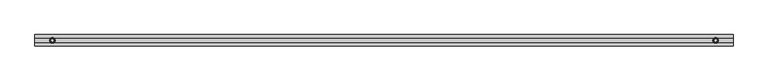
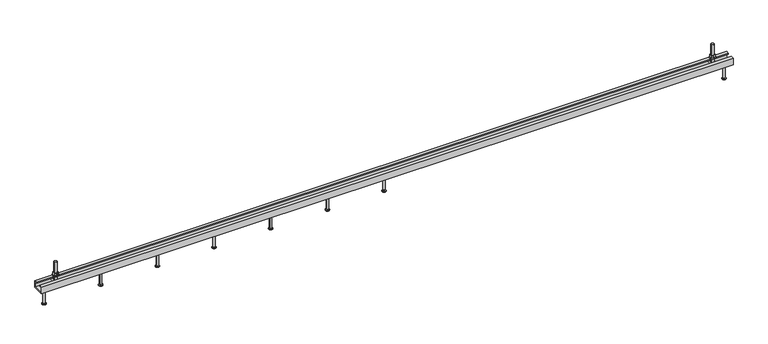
"""IFC4 building model written with IfcOpenShell, lengths in millimetres: fastener geometry, JTA-W JORDAHL® AnchorChannels : JTA-W L=3000 mm."""

from ifc_helpers import new_model, si_unit, point, frame, frame_2d, origin, place, context, project, spatial, polyline, circle_curve, trimmed, segment, composite_curve, outline, extrude, source, transform, mapped, element, save
from ifc_brep_helpers import plane_surface, cylinder_surface, revolved_surface, advanced_brep


def fastener_16a89f6c(model_context):
    return source(origin(), model_context, "Body", "SolidModel", [
        advanced_brep(
        [(1500.0, 0.0, -30.0), (1486.5, 0.0, -30.0), (1513.5, 0.0, -30.0), (1491.5, 0.0, -100.0), (1500.0, 0.0, -100.0), (1508.5, 0.0, -100.0), (1491.5, 0.0, -98.0), (1508.5, 0.0, -98.0), (1495.5, 0.0, -95.6905989), (1504.5, 0.0, -95.6905989), (1495.5, 0.0, -32.5), (1504.5, 0.0, -32.5)],
        [
            (0, 1),
            (1, 2, circle_curve(frame((1500.0, 0.0, -30.0), z_axis=(0.0, 0.0, 1.0), x_axis=(1.0, 0.0, 0.0)), 13.5)),
            (2, 0),
            (2, 1, circle_curve(frame((1500.0, 0.0, -30.0), z_axis=(0.0, 0.0, 1.0), x_axis=(1.0, 0.0, 0.0)), 13.5)),
            (3, 4),
            (4, 5),
            (5, 3, circle_curve(frame((1500.0, 0.0, -100.0), z_axis=(0.0, 0.0, -1.0), x_axis=(1.0, 0.0, 0.0)), 8.5)),
            (3, 5, circle_curve(frame((1500.0, 0.0, -100.0), z_axis=(0.0, 0.0, -1.0), x_axis=(1.0, 0.0, 0.0)), 8.5)),
            (6, 3),
            (5, 7),
            (7, 6, circle_curve(frame((1500.0, 0.0, -98.0), z_axis=(0.0, 0.0, -1.0), x_axis=(1.0, 0.0, 0.0)), 8.5)),
            (6, 7, circle_curve(frame((1500.0, 0.0, -98.0), z_axis=(0.0, 0.0, -1.0), x_axis=(1.0, 0.0, 0.0)), 8.5)),
            (8, 6),
            (7, 9),
            (9, 8, circle_curve(frame((1500.0, 0.0, -95.6905989), z_axis=(0.0, 0.0, -1.0), x_axis=(1.0, 0.0, 0.0)), 4.5)),
            (8, 9, circle_curve(frame((1500.0, 0.0, -95.6905989), z_axis=(0.0, 0.0, -1.0), x_axis=(1.0, 0.0, 0.0)), 4.5)),
            (10, 8),
            (9, 11),
            (11, 10, circle_curve(frame((1500.0, 0.0, -32.5), z_axis=(0.0, 0.0, -1.0), x_axis=(1.0, 0.0, 0.0)), 4.5)),
            (10, 11, circle_curve(frame((1500.0, 0.0, -32.5), z_axis=(0.0, 0.0, -1.0), x_axis=(1.0, 0.0, 0.0)), 4.5)),
            (1, 10),
            (11, 2),
        ],
        [
            plane_surface(frame((1500.0, 0.0, -30.0), z_axis=(0.0, 0.0, 1.0), x_axis=(1.0, 0.0, 0.0))),
            plane_surface(frame((1500.0, 0.0, -100.0), z_axis=(0.0, 0.0, -1.0), x_axis=(1.0, 0.0, 0.0))),
            cylinder_surface(frame((1500.0, 0.0, 2284.3150031), z_axis=(0.0, 0.0, 1.0), x_axis=(1.0, 0.0, 0.0)), 8.5),
            revolved_surface(polyline([(1508.5, 0.0, -98.0), (1504.5, 0.0, -95.6905989)]), (1500.0, 0.0, 2284.3150031), (0.0, 0.0, 1.0)),
            cylinder_surface(frame((1500.0, 0.0, 2284.3150031), z_axis=(0.0, 0.0, 1.0), x_axis=(1.0, 0.0, 0.0)), 4.5),
            revolved_surface(polyline([(1504.5, 0.0, -32.5), (1513.5, 0.0, -30.0)]), (1500.0, 0.0, 2284.3150031), (0.0, 0.0, 1.0)),
        ],
        [
            (0, [[1, 2, 3]]),
            (0, [[-3, 4, -1]]),
            (1, [[5, 6, 7]]),
            (1, [[-6, -5, 8]]),
            (2, [[9, -7, 10, 11]]),
            (2, [[-10, -8, -9, 12]]),
            (3, [[13, -11, 14, 15]]),
            (3, [[-14, -12, -13, 16]]),
            (4, [[17, -15, 18, 19]]),
            (4, [[-18, -16, -17, 20]]),
            (5, [[21, -19, 22, -2]]),
            (5, [[-22, -20, -21, -4]]),
        ],
    ),
        advanced_brep(
        [(1254.1666667, 0.0, -30.0), (1240.6666667, 0.0, -30.0), (1267.6666667, 0.0, -30.0), (1245.6666667, 0.0, -100.0), (1254.1666667, 0.0, -100.0), (1262.6666667, 0.0, -100.0), (1245.6666667, 0.0, -98.0), (1262.6666667, 0.0, -98.0), (1249.6666667, 0.0, -95.6905989), (1258.6666667, 0.0, -95.6905989), (1249.6666667, 0.0, -32.5), (1258.6666667, 0.0, -32.5)],
        [
            (0, 1),
            (1, 2, circle_curve(frame((1254.1666667, 0.0, -30.0), z_axis=(0.0, 0.0, 1.0), x_axis=(1.0, 0.0, 0.0)), 13.5)),
            (2, 0),
            (2, 1, circle_curve(frame((1254.1666667, 0.0, -30.0), z_axis=(0.0, 0.0, 1.0), x_axis=(1.0, 0.0, 0.0)), 13.5)),
            (3, 4),
            (4, 5),
            (5, 3, circle_curve(frame((1254.1666667, 0.0, -100.0), z_axis=(0.0, 0.0, -1.0), x_axis=(1.0, 0.0, 0.0)), 8.5)),
            (3, 5, circle_curve(frame((1254.1666667, 0.0, -100.0), z_axis=(0.0, 0.0, -1.0), x_axis=(1.0, 0.0, 0.0)), 8.5)),
            (6, 3),
            (5, 7),
            (7, 6, circle_curve(frame((1254.1666667, 0.0, -98.0), z_axis=(0.0, 0.0, -1.0), x_axis=(1.0, 0.0, 0.0)), 8.5)),
            (6, 7, circle_curve(frame((1254.1666667, 0.0, -98.0), z_axis=(0.0, 0.0, -1.0), x_axis=(1.0, 0.0, 0.0)), 8.5)),
            (8, 6),
            (7, 9),
            (9, 8, circle_curve(frame((1254.1666667, 0.0, -95.6905989), z_axis=(0.0, 0.0, -1.0), x_axis=(1.0, 0.0, 0.0)), 4.5)),
            (8, 9, circle_curve(frame((1254.1666667, 0.0, -95.6905989), z_axis=(0.0, 0.0, -1.0), x_axis=(1.0, 0.0, 0.0)), 4.5)),
            (10, 8),
            (9, 11),
            (11, 10, circle_curve(frame((1254.1666667, 0.0, -32.5), z_axis=(0.0, 0.0, -1.0), x_axis=(1.0, 0.0, 0.0)), 4.5)),
            (10, 11, circle_curve(frame((1254.1666667, 0.0, -32.5), z_axis=(0.0, 0.0, -1.0), x_axis=(1.0, 0.0, 0.0)), 4.5)),
            (1, 10),
            (11, 2),
        ],
        [
            plane_surface(frame((1254.1666667, 0.0, -30.0), z_axis=(0.0, 0.0, 1.0), x_axis=(1.0, 0.0, 0.0))),
            plane_surface(frame((1254.1666667, 0.0, -100.0), z_axis=(0.0, 0.0, -1.0), x_axis=(1.0, 0.0, 0.0))),
            cylinder_surface(frame((1254.1666667, 0.0, 2284.3150031), z_axis=(0.0, 0.0, 1.0), x_axis=(1.0, 0.0, 0.0)), 8.5),
            revolved_surface(polyline([(1262.6666667, 0.0, -98.0), (1258.6666667, 0.0, -95.6905989)]), (1254.1666667, 0.0, 2284.3150031), (0.0, 0.0, 1.0)),
            cylinder_surface(frame((1254.1666667, 0.0, 2284.3150031), z_axis=(0.0, 0.0, 1.0), x_axis=(1.0, 0.0, 0.0)), 4.5),
            revolved_surface(polyline([(1258.6666667, 0.0, -32.5), (1267.6666667, 0.0, -30.0)]), (1254.1666667, 0.0, 2284.3150031), (0.0, 0.0, 1.0)),
        ],
        [
            (0, [[1, 2, 3]]),
            (0, [[-3, 4, -1]]),
            (1, [[5, 6, 7]]),
            (1, [[-6, -5, 8]]),
            (2, [[9, -7, 10, 11]]),
            (2, [[-10, -8, -9, 12]]),
            (3, [[13, -11, 14, 15]]),
            (3, [[-14, -12, -13, 16]]),
            (4, [[17, -15, 18, 19]]),
            (4, [[-18, -16, -17, 20]]),
            (5, [[21, -19, 22, -2]]),
            (5, [[-22, -20, -21, -4]]),
        ],
    ),
        advanced_brep(
        [(1008.3333333, 0.0, -30.0), (994.8333333, 0.0, -30.0), (1021.8333333, 0.0, -30.0), (999.8333333, 0.0, -100.0), (1008.3333333, 0.0, -100.0), (1016.8333333, 0.0, -100.0), (999.8333333, 0.0, -98.0), (1016.8333333, 0.0, -98.0), (1003.8333333, 0.0, -95.6905989), (1012.8333333, 0.0, -95.6905989), (1003.8333333, 0.0, -32.5), (1012.8333333, 0.0, -32.5)],
        [
            (0, 1),
            (1, 2, circle_curve(frame((1008.3333333, 0.0, -30.0), z_axis=(0.0, 0.0, 1.0), x_axis=(1.0, 0.0, 0.0)), 13.5)),
            (2, 0),
            (2, 1, circle_curve(frame((1008.3333333, 0.0, -30.0), z_axis=(0.0, 0.0, 1.0), x_axis=(1.0, 0.0, 0.0)), 13.5)),
            (3, 4),
            (4, 5),
            (5, 3, circle_curve(frame((1008.3333333, 0.0, -100.0), z_axis=(0.0, 0.0, -1.0), x_axis=(1.0, 0.0, 0.0)), 8.5)),
            (3, 5, circle_curve(frame((1008.3333333, 0.0, -100.0), z_axis=(0.0, 0.0, -1.0), x_axis=(1.0, 0.0, 0.0)), 8.5)),
            (6, 3),
            (5, 7),
            (7, 6, circle_curve(frame((1008.3333333, 0.0, -98.0), z_axis=(0.0, 0.0, -1.0), x_axis=(1.0, 0.0, 0.0)), 8.5)),
            (6, 7, circle_curve(frame((1008.3333333, 0.0, -98.0), z_axis=(0.0, 0.0, -1.0), x_axis=(1.0, 0.0, 0.0)), 8.5)),
            (8, 6),
            (7, 9),
            (9, 8, circle_curve(frame((1008.3333333, 0.0, -95.6905989), z_axis=(0.0, 0.0, -1.0), x_axis=(1.0, 0.0, 0.0)), 4.5)),
            (8, 9, circle_curve(frame((1008.3333333, 0.0, -95.6905989), z_axis=(0.0, 0.0, -1.0), x_axis=(1.0, 0.0, 0.0)), 4.5)),
            (10, 8),
            (9, 11),
            (11, 10, circle_curve(frame((1008.3333333, 0.0, -32.5), z_axis=(0.0, 0.0, -1.0), x_axis=(1.0, 0.0, 0.0)), 4.5)),
            (10, 11, circle_curve(frame((1008.3333333, 0.0, -32.5), z_axis=(0.0, 0.0, -1.0), x_axis=(1.0, 0.0, 0.0)), 4.5)),
            (1, 10),
            (11, 2),
        ],
        [
            plane_surface(frame((1008.3333333, 0.0, -30.0), z_axis=(0.0, 0.0, 1.0), x_axis=(1.0, 0.0, 0.0))),
            plane_surface(frame((1008.3333333, 0.0, -100.0), z_axis=(0.0, 0.0, -1.0), x_axis=(1.0, 0.0, 0.0))),
            cylinder_surface(frame((1008.3333333, 0.0, 2284.3150031), z_axis=(0.0, 0.0, 1.0), x_axis=(1.0, 0.0, 0.0)), 8.5),
            revolved_surface(polyline([(1016.8333333, 0.0, -98.0), (1012.8333333, 0.0, -95.6905989)]), (1008.3333333, 0.0, 2284.3150031), (0.0, 0.0, 1.0)),
            cylinder_surface(frame((1008.3333333, 0.0, 2284.3150031), z_axis=(0.0, 0.0, 1.0), x_axis=(1.0, 0.0, 0.0)), 4.5),
            revolved_surface(polyline([(1012.8333333, 0.0, -32.5), (1021.8333333, 0.0, -30.0)]), (1008.3333333, 0.0, 2284.3150031), (0.0, 0.0, 1.0)),
        ],
        [
            (0, [[1, 2, 3]]),
            (0, [[-3, 4, -1]]),
            (1, [[5, 6, 7]]),
            (1, [[-6, -5, 8]]),
            (2, [[9, -7, 10, 11]]),
            (2, [[-10, -8, -9, 12]]),
            (3, [[13, -11, 14, 15]]),
            (3, [[-14, -12, -13, 16]]),
            (4, [[17, -15, 18, 19]]),
            (4, [[-18, -16, -17, 20]]),
            (5, [[21, -19, 22, -2]]),
            (5, [[-22, -20, -21, -4]]),
        ],
    ),
        advanced_brep(
        [(762.5, 0.0, -30.0), (749.0, 0.0, -30.0), (776.0, 0.0, -30.0), (754.0, 0.0, -100.0), (762.5, 0.0, -100.0), (771.0, 0.0, -100.0), (754.0, 0.0, -98.0), (771.0, 0.0, -98.0), (758.0, 0.0, -95.6905989), (767.0, 0.0, -95.6905989), (758.0, 0.0, -32.5), (767.0, 0.0, -32.5)],
        [
            (0, 1),
            (1, 2, circle_curve(frame((762.5, 0.0, -30.0), z_axis=(0.0, 0.0, 1.0), x_axis=(1.0, 0.0, 0.0)), 13.5)),
            (2, 0),
            (2, 1, circle_curve(frame((762.5, 0.0, -30.0), z_axis=(0.0, 0.0, 1.0), x_axis=(1.0, 0.0, 0.0)), 13.5)),
            (3, 4),
            (4, 5),
            (5, 3, circle_curve(frame((762.5, 0.0, -100.0), z_axis=(0.0, 0.0, -1.0), x_axis=(1.0, 0.0, 0.0)), 8.5)),
            (3, 5, circle_curve(frame((762.5, 0.0, -100.0), z_axis=(0.0, 0.0, -1.0), x_axis=(1.0, 0.0, 0.0)), 8.5)),
            (6, 3),
            (5, 7),
            (7, 6, circle_curve(frame((762.5, 0.0, -98.0), z_axis=(0.0, 0.0, -1.0), x_axis=(1.0, 0.0, 0.0)), 8.5)),
            (6, 7, circle_curve(frame((762.5, 0.0, -98.0), z_axis=(0.0, 0.0, -1.0), x_axis=(1.0, 0.0, 0.0)), 8.5)),
            (8, 6),
            (7, 9),
            (9, 8, circle_curve(frame((762.5, 0.0, -95.6905989), z_axis=(0.0, 0.0, -1.0), x_axis=(1.0, 0.0, 0.0)), 4.5)),
            (8, 9, circle_curve(frame((762.5, 0.0, -95.6905989), z_axis=(0.0, 0.0, -1.0), x_axis=(1.0, 0.0, 0.0)), 4.5)),
            (10, 8),
            (9, 11),
            (11, 10, circle_curve(frame((762.5, 0.0, -32.5), z_axis=(0.0, 0.0, -1.0), x_axis=(1.0, 0.0, 0.0)), 4.5)),
            (10, 11, circle_curve(frame((762.5, 0.0, -32.5), z_axis=(0.0, 0.0, -1.0), x_axis=(1.0, 0.0, 0.0)), 4.5)),
            (1, 10),
            (11, 2),
        ],
        [
            plane_surface(frame((762.5, 0.0, -30.0), z_axis=(0.0, 0.0, 1.0), x_axis=(1.0, 0.0, 0.0))),
            plane_surface(frame((762.5, 0.0, -100.0), z_axis=(0.0, 0.0, -1.0), x_axis=(1.0, 0.0, 0.0))),
            cylinder_surface(frame((762.5, 0.0, 2284.3150031), z_axis=(0.0, 0.0, 1.0), x_axis=(1.0, 0.0, 0.0)), 8.5),
            revolved_surface(polyline([(771.0, 0.0, -98.0), (767.0, 0.0, -95.6905989)]), (762.5, 0.0, 2284.3150031), (0.0, 0.0, 1.0)),
            cylinder_surface(frame((762.5, 0.0, 2284.3150031), z_axis=(0.0, 0.0, 1.0), x_axis=(1.0, 0.0, 0.0)), 4.5),
            revolved_surface(polyline([(767.0, 0.0, -32.5), (776.0, 0.0, -30.0)]), (762.5, 0.0, 2284.3150031), (0.0, 0.0, 1.0)),
        ],
        [
            (0, [[1, 2, 3]]),
            (0, [[-3, 4, -1]]),
            (1, [[5, 6, 7]]),
            (1, [[-6, -5, 8]]),
            (2, [[9, -7, 10, 11]]),
            (2, [[-10, -8, -9, 12]]),
            (3, [[13, -11, 14, 15]]),
            (3, [[-14, -12, -13, 16]]),
            (4, [[17, -15, 18, 19]]),
            (4, [[-18, -16, -17, 20]]),
            (5, [[21, -19, 22, -2]]),
            (5, [[-22, -20, -21, -4]]),
        ],
    ),
        advanced_brep(
        [(516.6666667, 0.0, -30.0), (503.1666667, 0.0, -30.0), (530.1666667, 0.0, -30.0), (508.1666667, 0.0, -100.0), (516.6666667, 0.0, -100.0), (525.1666667, 0.0, -100.0), (508.1666667, 0.0, -98.0), (525.1666667, 0.0, -98.0), (512.1666667, 0.0, -95.6905989), (521.1666667, 0.0, -95.6905989), (512.1666667, 0.0, -32.5), (521.1666667, 0.0, -32.5)],
        [
            (0, 1),
            (1, 2, circle_curve(frame((516.6666667, 0.0, -30.0), z_axis=(0.0, 0.0, 1.0), x_axis=(1.0, 0.0, 0.0)), 13.5)),
            (2, 0),
            (2, 1, circle_curve(frame((516.6666667, 0.0, -30.0), z_axis=(0.0, 0.0, 1.0), x_axis=(1.0, 0.0, 0.0)), 13.5)),
            (3, 4),
            (4, 5),
            (5, 3, circle_curve(frame((516.6666667, 0.0, -100.0), z_axis=(0.0, 0.0, -1.0), x_axis=(1.0, 0.0, 0.0)), 8.5)),
            (3, 5, circle_curve(frame((516.6666667, 0.0, -100.0), z_axis=(0.0, 0.0, -1.0), x_axis=(1.0, 0.0, 0.0)), 8.5)),
            (6, 3),
            (5, 7),
            (7, 6, circle_curve(frame((516.6666667, 0.0, -98.0), z_axis=(0.0, 0.0, -1.0), x_axis=(1.0, 0.0, 0.0)), 8.5)),
            (6, 7, circle_curve(frame((516.6666667, 0.0, -98.0), z_axis=(0.0, 0.0, -1.0), x_axis=(1.0, 0.0, 0.0)), 8.5)),
            (8, 6),
            (7, 9),
            (9, 8, circle_curve(frame((516.6666667, 0.0, -95.6905989), z_axis=(0.0, 0.0, -1.0), x_axis=(1.0, 0.0, 0.0)), 4.5)),
            (8, 9, circle_curve(frame((516.6666667, 0.0, -95.6905989), z_axis=(0.0, 0.0, -1.0), x_axis=(1.0, 0.0, 0.0)), 4.5)),
            (10, 8),
            (9, 11),
            (11, 10, circle_curve(frame((516.6666667, 0.0, -32.5), z_axis=(0.0, 0.0, -1.0), x_axis=(1.0, 0.0, 0.0)), 4.5)),
            (10, 11, circle_curve(frame((516.6666667, 0.0, -32.5), z_axis=(0.0, 0.0, -1.0), x_axis=(1.0, 0.0, 0.0)), 4.5)),
            (1, 10),
            (11, 2),
        ],
        [
            plane_surface(frame((516.6666667, 0.0, -30.0), z_axis=(0.0, 0.0, 1.0), x_axis=(1.0, 0.0, 0.0))),
            plane_surface(frame((516.6666667, 0.0, -100.0), z_axis=(0.0, 0.0, -1.0), x_axis=(1.0, 0.0, 0.0))),
            cylinder_surface(frame((516.6666667, 0.0, 2284.3150031), z_axis=(0.0, 0.0, 1.0), x_axis=(1.0, 0.0, 0.0)), 8.5),
            revolved_surface(polyline([(525.1666667, 0.0, -98.0), (521.1666667, 0.0, -95.6905989)]), (516.6666667, 0.0, 2284.3150031), (0.0, 0.0, 1.0)),
            cylinder_surface(frame((516.6666667, 0.0, 2284.3150031), z_axis=(0.0, 0.0, 1.0), x_axis=(1.0, 0.0, 0.0)), 4.5),
            revolved_surface(polyline([(521.1666667, 0.0, -32.5), (530.1666667, 0.0, -30.0)]), (516.6666667, 0.0, 2284.3150031), (0.0, 0.0, 1.0)),
        ],
        [
            (0, [[1, 2, 3]]),
            (0, [[-3, 4, -1]]),
            (1, [[5, 6, 7]]),
            (1, [[-6, -5, 8]]),
            (2, [[9, -7, 10, 11]]),
            (2, [[-10, -8, -9, 12]]),
            (3, [[13, -11, 14, 15]]),
            (3, [[-14, -12, -13, 16]]),
            (4, [[17, -15, 18, 19]]),
            (4, [[-18, -16, -17, 20]]),
            (5, [[21, -19, 22, -2]]),
            (5, [[-22, -20, -21, -4]]),
        ],
    ),
        advanced_brep(
        [(270.8333333, 0.0, -30.0), (257.3333333, 0.0, -30.0), (284.3333333, 0.0, -30.0), (262.3333333, 0.0, -100.0), (270.8333333, 0.0, -100.0), (279.3333333, 0.0, -100.0), (262.3333333, 0.0, -98.0), (279.3333333, 0.0, -98.0), (266.3333333, 0.0, -95.6905989), (275.3333333, 0.0, -95.6905989), (266.3333333, 0.0, -32.5), (275.3333333, 0.0, -32.5)],
        [
            (0, 1),
            (1, 2, circle_curve(frame((270.8333333, 0.0, -30.0), z_axis=(0.0, 0.0, 1.0), x_axis=(1.0, 0.0, 0.0)), 13.5)),
            (2, 0),
            (2, 1, circle_curve(frame((270.8333333, 0.0, -30.0), z_axis=(0.0, 0.0, 1.0), x_axis=(1.0, 0.0, 0.0)), 13.5)),
            (3, 4),
            (4, 5),
            (5, 3, circle_curve(frame((270.8333333, 0.0, -100.0), z_axis=(0.0, 0.0, -1.0), x_axis=(1.0, 0.0, 0.0)), 8.5)),
            (3, 5, circle_curve(frame((270.8333333, 0.0, -100.0), z_axis=(0.0, 0.0, -1.0), x_axis=(1.0, 0.0, 0.0)), 8.5)),
            (6, 3),
            (5, 7),
            (7, 6, circle_curve(frame((270.8333333, 0.0, -98.0), z_axis=(0.0, 0.0, -1.0), x_axis=(1.0, 0.0, 0.0)), 8.5)),
            (6, 7, circle_curve(frame((270.8333333, 0.0, -98.0), z_axis=(0.0, 0.0, -1.0), x_axis=(1.0, 0.0, 0.0)), 8.5)),
            (8, 6),
            (7, 9),
            (9, 8, circle_curve(frame((270.8333333, 0.0, -95.6905989), z_axis=(0.0, 0.0, -1.0), x_axis=(1.0, 0.0, 0.0)), 4.5)),
            (8, 9, circle_curve(frame((270.8333333, 0.0, -95.6905989), z_axis=(0.0, 0.0, -1.0), x_axis=(1.0, 0.0, 0.0)), 4.5)),
            (10, 8),
            (9, 11),
            (11, 10, circle_curve(frame((270.8333333, 0.0, -32.5), z_axis=(0.0, 0.0, -1.0), x_axis=(1.0, 0.0, 0.0)), 4.5)),
            (10, 11, circle_curve(frame((270.8333333, 0.0, -32.5), z_axis=(0.0, 0.0, -1.0), x_axis=(1.0, 0.0, 0.0)), 4.5)),
            (1, 10),
            (11, 2),
        ],
        [
            plane_surface(frame((270.8333333, 0.0, -30.0), z_axis=(0.0, 0.0, 1.0), x_axis=(1.0, 0.0, 0.0))),
            plane_surface(frame((270.8333333, 0.0, -100.0), z_axis=(0.0, 0.0, -1.0), x_axis=(1.0, 0.0, 0.0))),
            cylinder_surface(frame((270.8333333, 0.0, 2284.3150031), z_axis=(0.0, 0.0, 1.0), x_axis=(1.0, 0.0, 0.0)), 8.5),
            revolved_surface(polyline([(279.3333333, 0.0, -98.0), (275.3333333, 0.0, -95.6905989)]), (270.8333333, 0.0, 2284.3150031), (0.0, 0.0, 1.0)),
            cylinder_surface(frame((270.8333333, 0.0, 2284.3150031), z_axis=(0.0, 0.0, 1.0), x_axis=(1.0, 0.0, 0.0)), 4.5),
            revolved_surface(polyline([(275.3333333, 0.0, -32.5), (284.3333333, 0.0, -30.0)]), (270.8333333, 0.0, 2284.3150031), (0.0, 0.0, 1.0)),
        ],
        [
            (0, [[1, 2, 3]]),
            (0, [[-3, 4, -1]]),
            (1, [[5, 6, 7]]),
            (1, [[-6, -5, 8]]),
            (2, [[9, -7, 10, 11]]),
            (2, [[-10, -8, -9, 12]]),
            (3, [[13, -11, 14, 15]]),
            (3, [[-14, -12, -13, 16]]),
            (4, [[17, -15, 18, 19]]),
            (4, [[-18, -16, -17, 20]]),
            (5, [[21, -19, 22, -2]]),
            (5, [[-22, -20, -21, -4]]),
        ],
    ),
        extrude(outline(polyline([(2925.0, -10.3923048), (2916.0, -5.1961524), (2916.0, 5.1961524), (2925.0, 10.3923048), (2934.0, 5.1961524), (2934.0, -5.1961524), (2925.0, -10.3923048)]), holes=[composite_curve([segment(trimmed(circle_curve(frame_2d((2925.0, 0.0)), 6.0), [point((2919.0, 0.0))], [point((2931.0, 0.0))], True, "CARTESIAN"), True, "CONTINUOUS"), segment(trimmed(circle_curve(frame_2d((2925.0, 0.0)), 6.0), [point((2931.0, 0.0))], [point((2919.0, 0.0))], True, "CARTESIAN"), True, "CONTINUOUS")], self_intersect=False)]), frame((0.0, 0.0, 17.5), z_axis=(0.0, 0.0, 1.0), x_axis=(1.0, 0.0, 0.0)), (0.0, 0.0, 1.0), 10.8),
        extrude(outline(composite_curve([segment(trimmed(circle_curve(frame_2d((2925.0, 0.0)), 12.0), [point((2913.0, 0.0))], [point((2937.0, 0.0))], False, "CARTESIAN"), True, "CONTINUOUS"), segment(trimmed(circle_curve(frame_2d((2925.0, 0.0)), 12.0), [point((2937.0, 0.0))], [point((2913.0, 0.0))], False, "CARTESIAN"), True, "CONTINUOUS")], self_intersect=False), holes=[composite_curve([segment(trimmed(circle_curve(frame_2d((2925.0, 0.0)), 6.5), [point((2918.5, 0.0))], [point((2931.5, 0.0))], True, "CARTESIAN"), True, "CONTINUOUS"), segment(trimmed(circle_curve(frame_2d((2925.0, 0.0)), 6.5), [point((2931.5, 0.0))], [point((2918.5, 0.0))], True, "CARTESIAN"), True, "CONTINUOUS")], self_intersect=False)]), frame((0.0, 0.0, 15.0), z_axis=(0.0, 0.0, 1.0), x_axis=(1.0, 0.0, 0.0)), (0.0, 0.0, 1.0), 2.5),
        extrude(outline(polyline([(75.0, -10.3923048), (66.0, -5.1961524), (66.0, 5.1961524), (75.0, 10.3923048), (84.0, 5.1961524), (84.0, -5.1961524), (75.0, -10.3923048)]), holes=[composite_curve([segment(trimmed(circle_curve(frame_2d((75.0, 0.0)), 6.0), [point((69.0, 0.0))], [point((81.0, 0.0))], True, "CARTESIAN"), True, "CONTINUOUS"), segment(trimmed(circle_curve(frame_2d((75.0, 0.0)), 6.0), [point((81.0, 0.0))], [point((69.0, 0.0))], True, "CARTESIAN"), True, "CONTINUOUS")], self_intersect=False)]), frame((0.0, 0.0, 17.5), z_axis=(0.0, 0.0, 1.0), x_axis=(1.0, 0.0, 0.0)), (0.0, 0.0, 1.0), 10.8),
        extrude(outline(composite_curve([segment(trimmed(circle_curve(frame_2d((75.0, 0.0)), 12.0), [point((63.0, 0.0))], [point((87.0, 0.0))], False, "CARTESIAN"), True, "CONTINUOUS"), segment(trimmed(circle_curve(frame_2d((75.0, 0.0)), 12.0), [point((87.0, 0.0))], [point((63.0, 0.0))], False, "CARTESIAN"), True, "CONTINUOUS")], self_intersect=False), holes=[composite_curve([segment(trimmed(circle_curve(frame_2d((75.0, 0.0)), 6.5), [point((68.5, 0.0))], [point((81.5, 0.0))], True, "CARTESIAN"), True, "CONTINUOUS"), segment(trimmed(circle_curve(frame_2d((75.0, 0.0)), 6.5), [point((81.5, 0.0))], [point((68.5, 0.0))], True, "CARTESIAN"), True, "CONTINUOUS")], self_intersect=False)]), frame((0.0, 0.0, 15.0), z_axis=(0.0, 0.0, 1.0), x_axis=(1.0, 0.0, 0.0)), (0.0, 0.0, 1.0), 2.5),
        advanced_brep(
        [(2933.5, -20.7, -4.0), (2933.5, -20.7, -14.0), (2933.5, 20.7, -14.0), (2933.5, 20.7, -4.0), (2916.5, -20.7, -4.0), (2916.5, 20.7, -4.0), (2916.5, 20.7, -14.0), (2916.5, -20.7, -14.0), (2931.0, 0.0, -4.0), (2919.0, 0.0, -4.0), (2919.0, 0.0, 76.0), (2931.0, 0.0, 76.0)],
        [
            (0, 1),
            (1, 2),
            (2, 3),
            (3, 0),
            (4, 5),
            (5, 6),
            (6, 7),
            (7, 4),
            (3, 5),
            (4, 0),
            (8, 9, circle_curve(frame((2925.0, 0.0, -4.0), z_axis=(0.0, 0.0, -1.0), x_axis=(1.0, 0.0, 0.0)), 6.0)),
            (9, 8, circle_curve(frame((2925.0, 0.0, -4.0), z_axis=(0.0, 0.0, -1.0), x_axis=(1.0, 0.0, 0.0)), 6.0)),
            (2, 6),
            (1, 7),
            (10, 11, circle_curve(frame((2925.0, 0.0, 76.0), z_axis=(0.0, 0.0, 1.0), x_axis=(1.0, 0.0, 0.0)), 6.0)),
            (11, 10, circle_curve(frame((2925.0, 0.0, 76.0), z_axis=(0.0, 0.0, 1.0), x_axis=(1.0, 0.0, 0.0)), 6.0)),
            (11, 8),
            (9, 10),
        ],
        [
            plane_surface(frame((2933.5, 20.7, -4.0), z_axis=(1.0, 0.0, 0.0), x_axis=(0.0, 1.0, 0.0))),
            plane_surface(frame((2916.5, 20.7, -4.0), z_axis=(-1.0, 0.0, 0.0), x_axis=(0.0, -1.0, 0.0))),
            plane_surface(frame((2933.5, -20.7, -4.0), z_axis=(0.0, 0.0, 1.0), x_axis=(-1.0, 0.0, 0.0))),
            plane_surface(frame((2933.5, 20.7, -4.0), z_axis=(0.0, 1.0, 0.0), x_axis=(-1.0, 0.0, 0.0))),
            plane_surface(frame((2933.5, 20.7, -14.0), z_axis=(0.0, 0.0, -1.0), x_axis=(-1.0, 0.0, 0.0))),
            plane_surface(frame((2933.5, -20.7, -14.0), z_axis=(0.0, -1.0, 0.0), x_axis=(-1.0, 0.0, 0.0))),
            plane_surface(frame((2931.0, 0.0, 76.0), z_axis=(0.0, 0.0, 1.0), x_axis=(0.0, -1.0, 0.0))),
            cylinder_surface(frame((2925.0, 0.0, -4.0), z_axis=(0.0, 0.0, 1.0), x_axis=(1.0, 0.0, 0.0)), 6.0),
        ],
        [
            (0, [[1, 2, 3, 4]]),
            (1, [[5, 6, 7, 8]]),
            (2, [[9, -5, 10, -4], [11, 12]]),
            (3, [[13, -6, -9, -3]]),
            (4, [[14, -7, -13, -2]]),
            (5, [[-10, -8, -14, -1]]),
            (6, [[15, 16]]),
            (7, [[17, -12, 18, -16]]),
            (7, [[-18, -11, -17, -15]]),
        ],
    ),
        advanced_brep(
        [(83.5, -20.7, -4.0), (83.5, -20.7, -14.0), (83.5, 20.7, -14.0), (83.5, 20.7, -4.0), (66.5, -20.7, -4.0), (66.5, 20.7, -4.0), (66.5, 20.7, -14.0), (66.5, -20.7, -14.0), (81.0, 0.0, -4.0), (69.0, 0.0, -4.0), (69.0, 0.0, 76.0), (81.0, 0.0, 76.0)],
        [
            (0, 1),
            (1, 2),
            (2, 3),
            (3, 0),
            (4, 5),
            (5, 6),
            (6, 7),
            (7, 4),
            (3, 5),
            (4, 0),
            (8, 9, circle_curve(frame((75.0, 0.0, -4.0), z_axis=(0.0, 0.0, -1.0), x_axis=(1.0, 0.0, 0.0)), 6.0)),
            (9, 8, circle_curve(frame((75.0, 0.0, -4.0), z_axis=(0.0, 0.0, -1.0), x_axis=(1.0, 0.0, 0.0)), 6.0)),
            (2, 6),
            (1, 7),
            (10, 11, circle_curve(frame((75.0, 0.0, 76.0), z_axis=(0.0, 0.0, 1.0), x_axis=(1.0, 0.0, 0.0)), 6.0)),
            (11, 10, circle_curve(frame((75.0, 0.0, 76.0), z_axis=(0.0, 0.0, 1.0), x_axis=(1.0, 0.0, 0.0)), 6.0)),
            (11, 8),
            (9, 10),
        ],
        [
            plane_surface(frame((83.5, 20.7, -4.0), z_axis=(1.0, 0.0, 0.0), x_axis=(0.0, 1.0, 0.0))),
            plane_surface(frame((66.5, 20.7, -4.0), z_axis=(-1.0, 0.0, 0.0), x_axis=(0.0, -1.0, 0.0))),
            plane_surface(frame((83.5, -20.7, -4.0), z_axis=(0.0, 0.0, 1.0), x_axis=(-1.0, 0.0, 0.0))),
            plane_surface(frame((83.5, 20.7, -4.0), z_axis=(0.0, 1.0, 0.0), x_axis=(-1.0, 0.0, 0.0))),
            plane_surface(frame((83.5, 20.7, -14.0), z_axis=(0.0, 0.0, -1.0), x_axis=(-1.0, 0.0, 0.0))),
            plane_surface(frame((83.5, -20.7, -14.0), z_axis=(0.0, -1.0, 0.0), x_axis=(-1.0, 0.0, 0.0))),
            plane_surface(frame((81.0, 0.0, 76.0), z_axis=(0.0, 0.0, 1.0), x_axis=(0.0, -1.0, 0.0))),
            cylinder_surface(frame((75.0, 0.0, -4.0), z_axis=(0.0, 0.0, 1.0), x_axis=(1.0, 0.0, 0.0)), 6.0),
        ],
        [
            (0, [[1, 2, 3, 4]]),
            (1, [[5, 6, 7, 8]]),
            (2, [[9, -5, 10, -4], [11, 12]]),
            (3, [[13, -6, -9, -3]]),
            (4, [[14, -7, -13, -2]]),
            (5, [[-10, -8, -14, -1]]),
            (6, [[15, 16]]),
            (7, [[17, -12, 18, -16]]),
            (7, [[-18, -11, -17, -15]]),
        ],
    ),
        advanced_brep(
        [(2975.0, 0.0, -30.0), (2961.5, 0.0, -30.0), (2988.5, 0.0, -30.0), (2966.5, 0.0, -100.0), (2975.0, 0.0, -100.0), (2983.5, 0.0, -100.0), (2966.5, 0.0, -98.0), (2983.5, 0.0, -98.0), (2970.5, 0.0, -95.6905989), (2979.5, 0.0, -95.6905989), (2970.5, 0.0, -32.5), (2979.5, 0.0, -32.5)],
        [
            (0, 1),
            (1, 2, circle_curve(frame((2975.0, 0.0, -30.0), z_axis=(0.0, 0.0, 1.0), x_axis=(1.0, 0.0, 0.0)), 13.5)),
            (2, 0),
            (2, 1, circle_curve(frame((2975.0, 0.0, -30.0), z_axis=(0.0, 0.0, 1.0), x_axis=(1.0, 0.0, 0.0)), 13.5)),
            (3, 4),
            (4, 5),
            (5, 3, circle_curve(frame((2975.0, 0.0, -100.0), z_axis=(0.0, 0.0, -1.0), x_axis=(1.0, 0.0, 0.0)), 8.5)),
            (3, 5, circle_curve(frame((2975.0, 0.0, -100.0), z_axis=(0.0, 0.0, -1.0), x_axis=(1.0, 0.0, 0.0)), 8.5)),
            (6, 3),
            (5, 7),
            (7, 6, circle_curve(frame((2975.0, 0.0, -98.0), z_axis=(0.0, 0.0, -1.0), x_axis=(1.0, 0.0, 0.0)), 8.5)),
            (6, 7, circle_curve(frame((2975.0, 0.0, -98.0), z_axis=(0.0, 0.0, -1.0), x_axis=(1.0, 0.0, 0.0)), 8.5)),
            (8, 6),
            (7, 9),
            (9, 8, circle_curve(frame((2975.0, 0.0, -95.6905989), z_axis=(0.0, 0.0, -1.0), x_axis=(1.0, 0.0, 0.0)), 4.5)),
            (8, 9, circle_curve(frame((2975.0, 0.0, -95.6905989), z_axis=(0.0, 0.0, -1.0), x_axis=(1.0, 0.0, 0.0)), 4.5)),
            (10, 8),
            (9, 11),
            (11, 10, circle_curve(frame((2975.0, 0.0, -32.5), z_axis=(0.0, 0.0, -1.0), x_axis=(1.0, 0.0, 0.0)), 4.5)),
            (10, 11, circle_curve(frame((2975.0, 0.0, -32.5), z_axis=(0.0, 0.0, -1.0), x_axis=(1.0, 0.0, 0.0)), 4.5)),
            (1, 10),
            (11, 2),
        ],
        [
            plane_surface(frame((2975.0, 0.0, -30.0), z_axis=(0.0, 0.0, 1.0), x_axis=(1.0, 0.0, 0.0))),
            plane_surface(frame((2975.0, 0.0, -100.0), z_axis=(0.0, 0.0, -1.0), x_axis=(1.0, 0.0, 0.0))),
            cylinder_surface(frame((2975.0, 0.0, 2284.3150031), z_axis=(0.0, 0.0, 1.0), x_axis=(1.0, 0.0, 0.0)), 8.5),
            revolved_surface(polyline([(2983.5, 0.0, -98.0), (2979.5, 0.0, -95.6905989)]), (2975.0, 0.0, 2284.3150031), (0.0, 0.0, 1.0)),
            cylinder_surface(frame((2975.0, 0.0, 2284.3150031), z_axis=(0.0, 0.0, 1.0), x_axis=(1.0, 0.0, 0.0)), 4.5),
            revolved_surface(polyline([(2979.5, 0.0, -32.5), (2988.5, 0.0, -30.0)]), (2975.0, 0.0, 2284.3150031), (0.0, 0.0, 1.0)),
        ],
        [
            (0, [[1, 2, 3]]),
            (0, [[-3, 4, -1]]),
            (1, [[5, 6, 7]]),
            (1, [[-6, -5, 8]]),
            (2, [[9, -7, 10, 11]]),
            (2, [[-10, -8, -9, 12]]),
            (3, [[13, -11, 14, 15]]),
            (3, [[-14, -12, -13, 16]]),
            (4, [[17, -15, 18, 19]]),
            (4, [[-18, -16, -17, 20]]),
            (5, [[21, -19, 22, -2]]),
            (5, [[-22, -20, -21, -4]]),
        ],
    ),
        advanced_brep(
        [(25.0, 0.0, -30.0), (11.5, 0.0, -30.0), (38.5, 0.0, -30.0), (16.5, 0.0, -100.0), (25.0, 0.0, -100.0), (33.5, 0.0, -100.0), (16.5, 0.0, -98.0), (33.5, 0.0, -98.0), (20.5, 0.0, -95.6905989), (29.5, 0.0, -95.6905989), (20.5, 0.0, -32.5), (29.5, 0.0, -32.5)],
        [
            (0, 1),
            (1, 2, circle_curve(frame((25.0, 0.0, -30.0), z_axis=(0.0, 0.0, 1.0), x_axis=(1.0, 0.0, 0.0)), 13.5)),
            (2, 0),
            (2, 1, circle_curve(frame((25.0, 0.0, -30.0), z_axis=(0.0, 0.0, 1.0), x_axis=(1.0, 0.0, 0.0)), 13.5)),
            (3, 4),
            (4, 5),
            (5, 3, circle_curve(frame((25.0, 0.0, -100.0), z_axis=(0.0, 0.0, -1.0), x_axis=(1.0, 0.0, 0.0)), 8.5)),
            (3, 5, circle_curve(frame((25.0, 0.0, -100.0), z_axis=(0.0, 0.0, -1.0), x_axis=(1.0, 0.0, 0.0)), 8.5)),
            (6, 3),
            (5, 7),
            (7, 6, circle_curve(frame((25.0, 0.0, -98.0), z_axis=(0.0, 0.0, -1.0), x_axis=(1.0, 0.0, 0.0)), 8.5)),
            (6, 7, circle_curve(frame((25.0, 0.0, -98.0), z_axis=(0.0, 0.0, -1.0), x_axis=(1.0, 0.0, 0.0)), 8.5)),
            (8, 6),
            (7, 9),
            (9, 8, circle_curve(frame((25.0, 0.0, -95.6905989), z_axis=(0.0, 0.0, -1.0), x_axis=(1.0, 0.0, 0.0)), 4.5)),
            (8, 9, circle_curve(frame((25.0, 0.0, -95.6905989), z_axis=(0.0, 0.0, -1.0), x_axis=(1.0, 0.0, 0.0)), 4.5)),
            (10, 8),
            (9, 11),
            (11, 10, circle_curve(frame((25.0, 0.0, -32.5), z_axis=(0.0, 0.0, -1.0), x_axis=(1.0, 0.0, 0.0)), 4.5)),
            (10, 11, circle_curve(frame((25.0, 0.0, -32.5), z_axis=(0.0, 0.0, -1.0), x_axis=(1.0, 0.0, 0.0)), 4.5)),
            (1, 10),
            (11, 2),
        ],
        [
            plane_surface(frame((25.0, 0.0, -30.0), z_axis=(0.0, 0.0, 1.0), x_axis=(1.0, 0.0, 0.0))),
            plane_surface(frame((25.0, 0.0, -100.0), z_axis=(0.0, 0.0, -1.0), x_axis=(1.0, 0.0, 0.0))),
            cylinder_surface(frame((25.0, 0.0, 2284.3150031), z_axis=(0.0, 0.0, 1.0), x_axis=(1.0, 0.0, 0.0)), 8.5),
            revolved_surface(polyline([(33.5, 0.0, -98.0), (29.5, 0.0, -95.6905989)]), (25.0, 0.0, 2284.3150031), (0.0, 0.0, 1.0)),
            cylinder_surface(frame((25.0, 0.0, 2284.3150031), z_axis=(0.0, 0.0, 1.0), x_axis=(1.0, 0.0, 0.0)), 4.5),
            revolved_surface(polyline([(29.5, 0.0, -32.5), (38.5, 0.0, -30.0)]), (25.0, 0.0, 2284.3150031), (0.0, 0.0, 1.0)),
        ],
        [
            (0, [[1, 2, 3]]),
            (0, [[-3, 4, -1]]),
            (1, [[5, 6, 7]]),
            (1, [[-6, -5, 8]]),
            (2, [[9, -7, 10, 11]]),
            (2, [[-10, -8, -9, 12]]),
            (3, [[13, -11, 14, 15]]),
            (3, [[-14, -12, -13, 16]]),
            (4, [[17, -15, 18, 19]]),
            (4, [[-18, -16, -17, 20]]),
            (5, [[21, -19, 22, -2]]),
            (5, [[-22, -20, -21, -4]]),
        ],
    ),
        extrude(outline(polyline([(-24.75, 0.0), (-11.25, 0.0), (-11.25, -4.0), (-21.95, -4.0), (-21.95, -27.2), (21.95, -27.2), (21.95, -4.0), (11.25, -4.0), (11.25, 0.0), (24.75, 0.0), (24.75, -30.0), (-24.75, -30.0), (-24.75, 0.0)])), frame((0.0, 0.0, 0.0), z_axis=(1.0, 0.0, 0.0), x_axis=(0.0, 1.0, 0.0)), (0.0, 0.0, 1.0), 3000.0),
    ])


if __name__ == "__main__":
    model = new_model("IFC4")
    model_context = context("Model", 3, world=origin())
    ifc_project = project(units=[si_unit("LENGTHUNIT", "METRE", prefix="MILLI")], contexts=[model_context])
    site = spatial("IfcSite", under=ifc_project)
    building = spatial("IfcBuilding", under=site)
    placement = place(None, origin())
    fastener_shape = fastener_16a89f6c(model_context)
    element("IfcFastener", 1, ObjectType="JTA-W JORDAHL® AnchorChannels : JTA-W L=3000 mm", at=placement, inside=building, context=model_context, shape_type="MappedRepresentation", body=[
        mapped(fastener_shape, transform((0.0, 0.0, 0.0), x_axis=(1.0, 0.0, 0.0), y_axis=(0.0, 1.0, 0.0), z_axis=(0.0, 0.0, 1.0))),
    ])
    save(model, "model.ifc")
